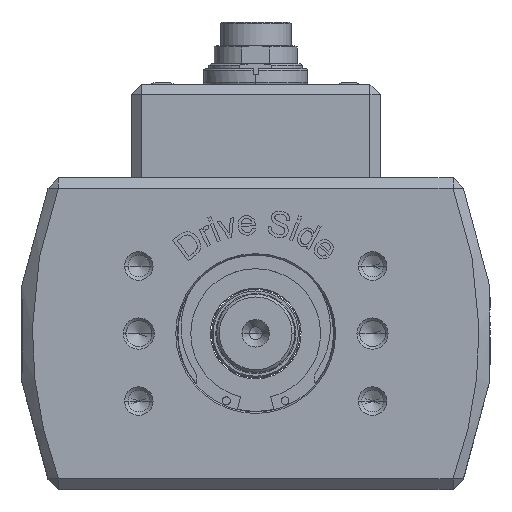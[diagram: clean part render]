
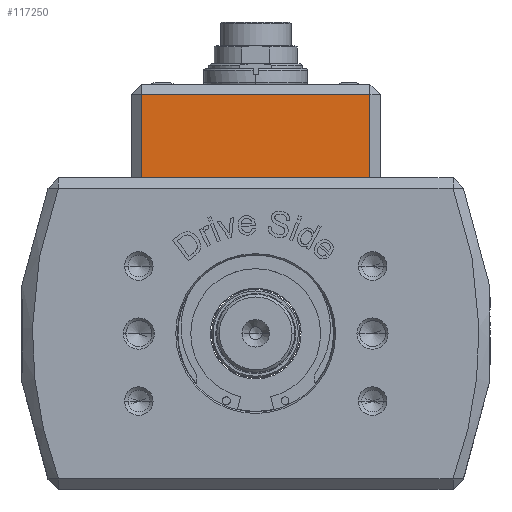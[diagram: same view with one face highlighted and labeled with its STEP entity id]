
A CAD part, top view. The second image highlights one B-rep face of the part: STEP entity #117250.
In plain terms, the highlighted planar face has unit normal (0, 0, 1).
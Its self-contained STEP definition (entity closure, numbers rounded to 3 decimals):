
#71 = DIRECTION ( 'NONE',  ( 1., 0., 0. ) ) ;
#1220 = CARTESIAN_POINT ( 'NONE',  ( 22., 48., 24. ) ) ;
#1936 = DIRECTION ( 'NONE',  ( 0., 1., 0. ) ) ;
#2814 = LINE ( 'NONE', #5001, #89470 ) ;
#5001 = CARTESIAN_POINT ( 'NONE',  ( -24., 46., 24. ) ) ;
#12624 = VERTEX_POINT ( 'NONE', #144221 ) ;
#14999 = ORIENTED_EDGE ( 'NONE', *, *, #101549, .T. ) ;
#20416 = VERTEX_POINT ( 'NONE', #43590 ) ;
#25234 = DIRECTION ( 'NONE',  ( 0., -1., 0. ) ) ;
#25671 = DIRECTION ( 'NONE',  ( 0., 0., -1. ) ) ;
#26670 = ORIENTED_EDGE ( 'NONE', *, *, #98234, .T. ) ;
#29106 = ORIENTED_EDGE ( 'NONE', *, *, #84826, .T. ) ;
#29612 = AXIS2_PLACEMENT_3D ( 'NONE', #93526, #25671, #90603 ) ;
#31769 = VECTOR ( 'NONE', #25234, 1000. ) ;
#43020 = EDGE_CURVE ( 'NONE', #104098, #20416, #2814, .T. ) ;
#43590 = CARTESIAN_POINT ( 'NONE',  ( -22., 46., 24. ) ) ;
#44168 = VECTOR ( 'NONE', #71, 1000. ) ;
#50047 = DIRECTION ( 'NONE',  ( -1., 0., 0. ) ) ;
#56253 = LINE ( 'NONE', #126330, #31769 ) ;
#69181 = FACE_OUTER_BOUND ( 'NONE', #121169, .T. ) ;
#70519 = CARTESIAN_POINT ( 'NONE',  ( 22., 46., 24. ) ) ;
#77569 = LINE ( 'NONE', #113012, #44168 ) ;
#84826 = EDGE_CURVE ( 'NONE', #20416, #12624, #56253, .T. ) ;
#89216 = VECTOR ( 'NONE', #1936, 1000. ) ;
#89470 = VECTOR ( 'NONE', #50047, 1000. ) ;
#90603 = DIRECTION ( 'NONE',  ( -1., 0., 0. ) ) ;
#93526 = CARTESIAN_POINT ( 'NONE',  ( -24., 48., 24. ) ) ;
#98234 = EDGE_CURVE ( 'NONE', #12624, #107074, #77569, .T. ) ;
#101549 = EDGE_CURVE ( 'NONE', #107074, #104098, #103785, .T. ) ;
#103785 = LINE ( 'NONE', #1220, #89216 ) ;
#104098 = VERTEX_POINT ( 'NONE', #70519 ) ;
#107074 = VERTEX_POINT ( 'NONE', #124997 ) ;
#113012 = CARTESIAN_POINT ( 'NONE',  ( -24., 30., 24. ) ) ;
#114969 = PLANE ( 'NONE',  #29612 ) ;
#117250 = ADVANCED_FACE ( 'NONE', ( #69181 ), #114969, .F. ) ;
#121169 = EDGE_LOOP ( 'NONE', ( #26670, #14999, #125189, #29106 ) ) ;
#124997 = CARTESIAN_POINT ( 'NONE',  ( 22., 30., 24. ) ) ;
#125189 = ORIENTED_EDGE ( 'NONE', *, *, #43020, .T. ) ;
#126330 = CARTESIAN_POINT ( 'NONE',  ( -22., 48., 24. ) ) ;
#144221 = CARTESIAN_POINT ( 'NONE',  ( -22., 30., 24. ) ) ;
